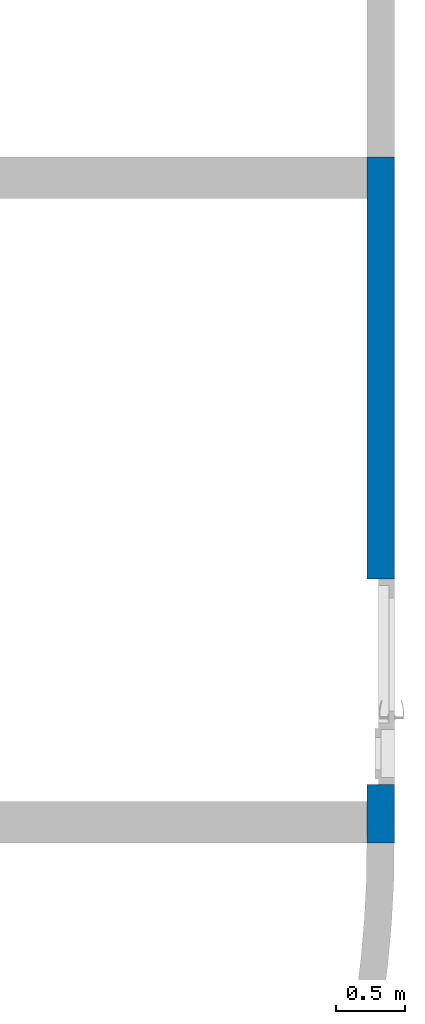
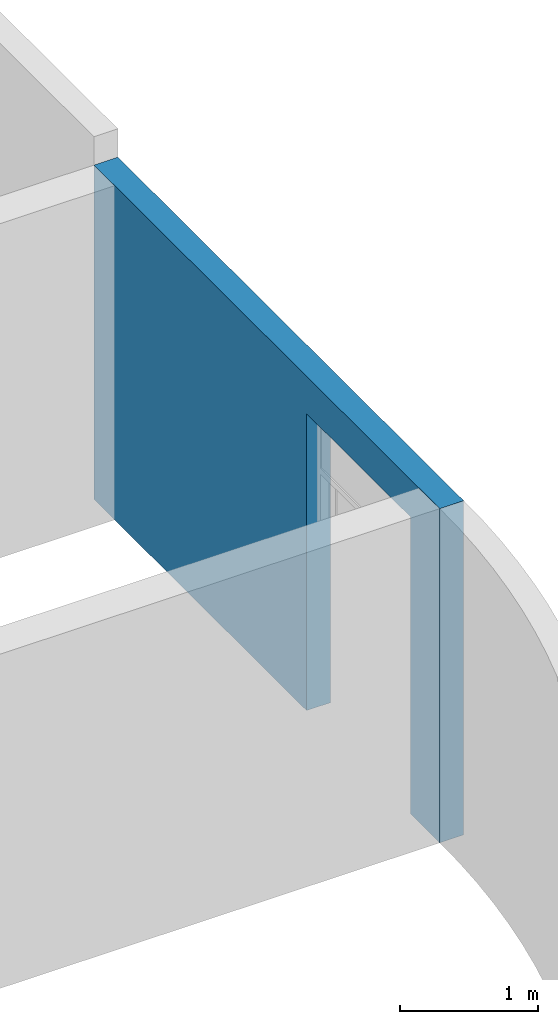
# One storey, part 5 of 6: 1 wall, 1 opening.
"""IFC4 building model written with IfcOpenShell, lengths in millimetres."""

from ifc_helpers import new_model, entity, si_unit, converted_unit, derived_unit, direction, frame, origin_with_axes, place, context, subcontext, project, spatial, polygons, material, constituent, constituent_set, type_object, element, save


model = new_model("IFC4")

# Units and contexts
model_context = context("Model", 3, precision=0.01, world=origin_with_axes(), true_north=direction((0.0, 1.0)))
body_context = subcontext(model_context, "Body", "Model", "MODEL_VIEW")
ifc_project = project(units=[si_unit("LENGTHUNIT", "METRE", prefix="MILLI"), si_unit("AREAUNIT", "SQUARE_METRE"), si_unit("VOLUMEUNIT", "CUBIC_METRE"), converted_unit("PLANEANGLEUNIT", "DEGREE", entity("IfcPlaneAngleMeasure", 0.0174532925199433), si_unit("PLANEANGLEUNIT", "RADIAN"), dimensions=[0, 0, 0, 0, 0, 0, 0]), converted_unit("TIMEUNIT", "Year", entity("IfcTimeMeasure", 31557600.0), si_unit("TIMEUNIT", "SECOND"), dimensions=[0, 0, 1, 0, 0, 0, 0]), si_unit("MASSUNIT", "GRAM", prefix="KILO"), si_unit("THERMODYNAMICTEMPERATUREUNIT", "DEGREE_CELSIUS"), si_unit("LUMINOUSINTENSITYUNIT", "LUMEN"), si_unit("ENERGYUNIT", "JOULE", prefix="MEGA"), derived_unit("THERMALCONDUCTANCEUNIT", [(si_unit("POWERUNIT", "WATT"), 1), (si_unit("LENGTHUNIT", "METRE"), -1), (si_unit("THERMODYNAMICTEMPERATUREUNIT", "KELVIN"), -1)]), derived_unit("SPECIFICHEATCAPACITYUNIT", [(si_unit("ENERGYUNIT", "JOULE"), 1), (si_unit("MASSUNIT", "GRAM", prefix="KILO"), -1), (si_unit("THERMODYNAMICTEMPERATUREUNIT", "KELVIN"), -1)]), derived_unit("MASSDENSITYUNIT", [(si_unit("MASSUNIT", "GRAM", prefix="KILO"), 1), (si_unit("VOLUMEUNIT", "CUBIC_METRE"), -1)])], contexts=[model_context])

# Site, building, storey
site_placement = place(None, origin_with_axes())
site = spatial("IfcSite", under=ifc_project, at=site_placement, Name="Exteriér", CompositionType="ELEMENT")
building_placement = place(site_placement, origin_with_axes())
building = spatial("IfcBuilding", under=site, at=building_placement, Name="Univerzitní lezecké centrum", CompositionType="ELEMENT")
storey_placement = place(building_placement, origin_with_axes())
storey = spatial("IfcBuildingStorey", under=building, at=storey_placement, Name="1.NP", CompositionType="ELEMENT", Elevation=0.0)

# Wall, opening
ifc_material = material(Name="Beton vyztužený - vnější svislé kce")
ifc_constituent = constituent(ifc_material, Name="Beton vyztužený - vnější svislé kce")
ifc_constituent_set = constituent_set(constituents=[ifc_constituent], Name="!Vnější betonová stěna 200 mm")
wall_type = type_object("IfcWallType", Name="!Vnější betonová stěna 200 mm 200", PredefinedType="NOTDEFINED")
wall_placement = place(storey_placement, frame((10449.85164885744, 4699.99999999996, -120.000000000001), z_axis=(0.0, 0.0, 1.0), x_axis=(0.0, -1.0, 0.0)))
wall = element("IfcWall", 1, at=wall_placement, inside=storey, type_object=wall_type, material=ifc_constituent_set, Name="St01", PredefinedType="NOTDEFINED", context=body_context, shape_type="Tessellation", body=[
    polygons([(3074.997164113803, 199.9999999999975, 0.4999999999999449), (3074.997164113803, 199.9999999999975, 0.0), (0.0, 199.9999999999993, 0.0), (0.0, 200.0000000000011, 2950.000000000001), (5000.0, 199.9999999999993, 2950.000000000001), (5000.0, 199.9999999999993, 0.0), (4574.99988077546, 199.9999999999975, 0.0), (4574.99988077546, 199.9999999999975, 0.4999999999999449), (4575.00000011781, 199.9999999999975, 120.000000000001), (4575.00000011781, 199.9999999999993, 2620.000000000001), (3075.00000011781, 199.9999999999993, 2620.000000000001), (3075.00000011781, 199.9999999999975, 120.000000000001), (3074.997164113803, -7.25427060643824e-05, 0.4999999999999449), (3074.997164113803, -7.25427060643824e-05, 0.0), (0.0, 0.0, 0.0), (0.0, 0.0, 2950.000000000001), (5000.0, 0.0, 2950.000000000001), (5000.0, 0.0, 0.0), (4574.99988077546, -7.25427060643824e-05, 0.0), (4574.99988077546, -7.25427060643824e-05, 0.4999999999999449), (4575.00000011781, 0.0, 120.000000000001), (4575.00000011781, 0.0, 2620.000000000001), (3075.00000011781, 0.0, 2620.000000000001), (3075.00000011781, 0.0, 120.000000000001)], [[[1, 2, 3, 4, 5, 6, 7, 8, 9, 10, 11, 12]], [[2, 1, 13, 14]], [[2, 14, 15, 3]], [[4, 3, 15, 16]], [[4, 16, 17, 5]], [[18, 6, 5, 17]], [[19, 7, 6, 18]], [[20, 8, 7, 19]], [[8, 20, 21, 9]], [[9, 21, 22, 10]], [[10, 22, 23, 11]], [[11, 23, 24, 12]], [[13, 1, 12, 24]], [[14, 13, 24, 23, 22, 21, 20, 19, 18, 17, 16, 15]]], closed=True),
])
opening_placement = place(wall_placement, frame((3825.00000011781, 0.0, 120.000000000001), z_axis=(0.0, 0.0, 1.0), x_axis=(1.0, 0.0, 0.0)))
element("IfcOpeningElement", 2, at=opening_placement, cuts=wall, Name="D02", context=body_context, identifier="Reference", shape_type="Tessellation", body=[
    polygons([(750.0, 84.99999999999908, 0.0), (750.0, 84.99999999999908, 2500.0), (750.0, -0.9999999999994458, 2500.0), (750.0, -0.9999999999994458, 0.0), (750.0, 200.9999999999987, 0.0), (750.0, 200.9999999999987, 2500.0), (-750.0, 84.99999999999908, 2500.0), (-750.0, -0.9999999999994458, 2500.0), (-750.0, 200.9999999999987, 2500.0), (-750.0, -0.9999999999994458, 0.0), (-750.0, 84.99999999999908, 0.0), (-750.0, 200.9999999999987, 0.0)], [[[1, 2, 3, 4]], [[2, 1, 5, 6]], [[7, 8, 3, 2, 6, 9]], [[8, 10, 4, 3]], [[1, 4, 10, 11, 12, 5]], [[6, 5, 12, 9]], [[7, 11, 10, 8]], [[11, 7, 9, 12]]], closed=True),
])

save(model, "model.ifc")
